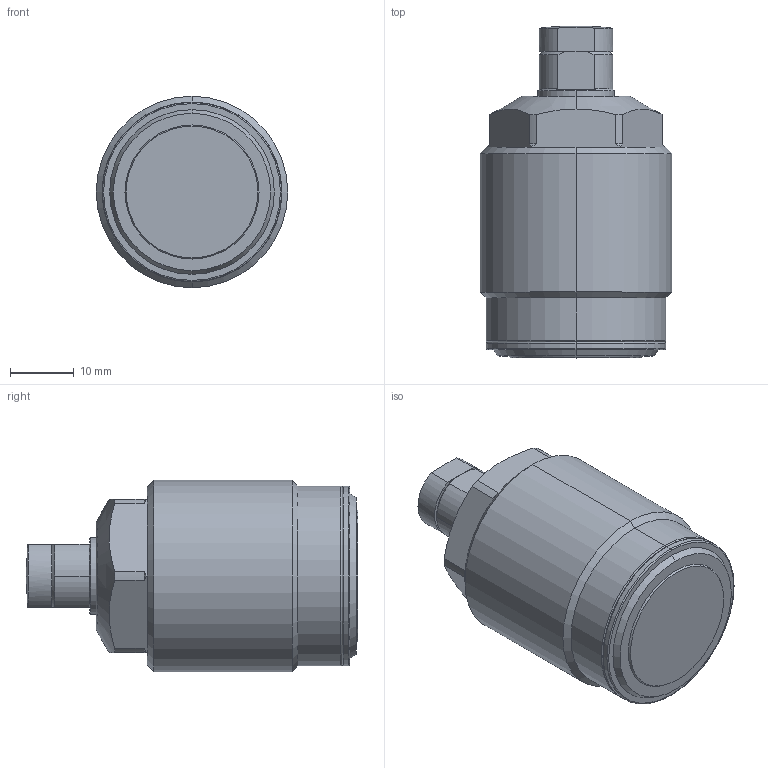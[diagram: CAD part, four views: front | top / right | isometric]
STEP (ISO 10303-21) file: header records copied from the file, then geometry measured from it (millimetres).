
FILE_DESCRIPTION(/* description */ (''),/* implementation_level */ '2;1');
FILE_NAME(/* name */ 'TSC01.stp',/* time_stamp */ '2022-11-16T14:38:29+08:00',/* author */ (''),/* organization */ (''),/* preprocessor_version */ 'ST-DEVELOPER v16.7',/* originating_system */ 'SIEMENS PLM Software NX 12.0',/* authorisation */ '');
FILE_SCHEMA (('AP203_CONFIGURATION_CONTROLLED_3D_DESIGN_OF_MECHANICAL_PARTS_AND_ASSEMBLIES_MIM_LF { 1 0 10303 403 2 1 2}'));
Length unit declared in the file: millimetre
Products named in the file (4): TSC01-01; TSC01-02; TSC01-03; CSY01_step
Assembly tree (3 placements, depth 2):
  CSY01_step
    TSC01-03
    TSC01-02
    TSC01-01
Bounding box: 30 x 52 x 30 mm (x, y, z)
Volume: 26750.8 mm3; surface area: 6573.6 mm2
Topology: 3 solids, 3 shells, 109 faces, 250 edges, 155 vertices
Faces by surface type: cylinder 35, cone 29, plane 25, torus 18, sphere 2
Entity records: 3585 total; most frequent: CARTESIAN_POINT 610, DIRECTION 586, ORIENTED_EDGE 500, AXIS2_PLACEMENT_3D 251, EDGE_CURVE 250, VERTEX_POINT 155, CIRCLE 138, EDGE_LOOP 119
